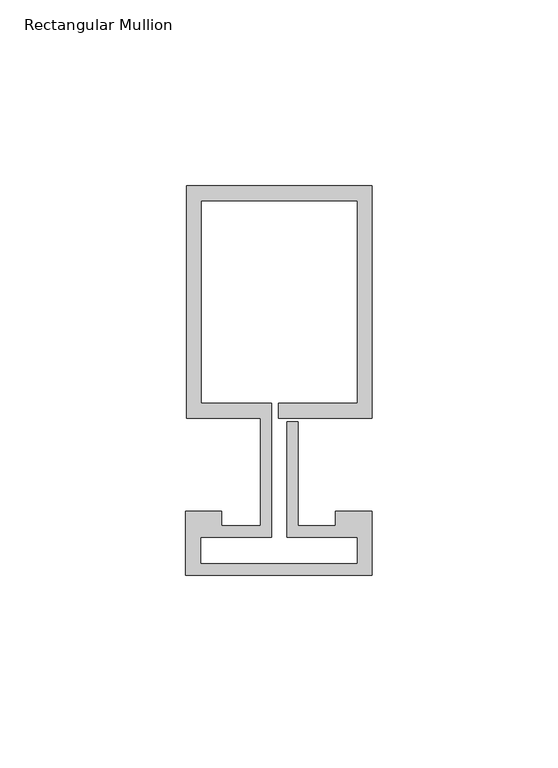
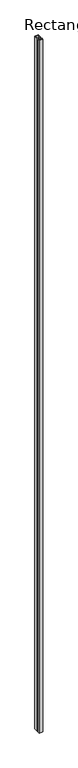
"""IFC4 building model written with IfcOpenShell, lengths in millimetres: member geometry, Rectangular Mullion : Reynaers_CW-50_Mullion-Transom_Vertical_62.5mm_Facecap-02B."""

from ifc_helpers import new_model, si_unit, frame, origin, place, context, project, spatial, polyline, outline, extrude, source, transform, mapped, element, save


def rectangular_mullion_d2667106(model_context):
    return source(origin(), model_context, "Body", "SweptSolid", [
        extrude(outline(polyline([(-24.8004059, 75.0), (25.1995941, 75.0), (25.1995941, 12.5), (0.0, 12.5), (0.0, 16.5), (21.1995941, 16.5), (21.1995941, 71.0), (-20.8004059, 71.0), (-20.8004059, 16.5), (-1.9004059, 16.5), (-1.9004059, -19.5), (-20.994845, -19.5), (-20.994845, -26.7191338), (21.1995941, -26.7191338), (21.1995941, -19.5), (2.2995941, -19.5), (2.2995941, 11.5), (5.2995941, 11.5), (5.2995941, -16.5), (15.2996495, -16.5), (15.2996495, -12.5), (25.1995941, -12.5), (25.1995941, -29.8), (-24.994845, -29.8), (-24.994845, -12.5), (-15.2996495, -12.5), (-15.2996495, -16.5), (-4.9004059, -16.5), (-4.9004059, 12.5), (-24.8004059, 12.5), (-24.8004059, 75.0)])), frame((0.0, 0.0, -10400.0), z_axis=(0.0, 0.0, 1.0), x_axis=(1.0, 0.0, 0.0)), (0.0, 0.0, 1.0), 10400.0),
    ])


if __name__ == "__main__":
    model = new_model("IFC4")
    model_context = context("Model", 3, world=origin())
    ifc_project = project(units=[si_unit("LENGTHUNIT", "METRE", prefix="MILLI")], contexts=[model_context])
    site = spatial("IfcSite", under=ifc_project)
    building = spatial("IfcBuilding", under=site)
    placement = place(None, origin())
    rectangular_mullion_shape = rectangular_mullion_d2667106(model_context)
    element("IfcMember", 1, ObjectType="Rectangular Mullion : Reynaers_CW-50_Mullion-Transom_Vertical_62.5mm_Facecap-02B", at=placement, inside=building, context=model_context, shape_type="MappedRepresentation", body=[
        mapped(rectangular_mullion_shape, transform((0.0, 0.0, 0.0), x_axis=(1.0, 0.0, 0.0), y_axis=(0.0, 1.0, 0.0), z_axis=(0.0, 0.0, 1.0))),
    ])
    save(model, "model.ifc")
